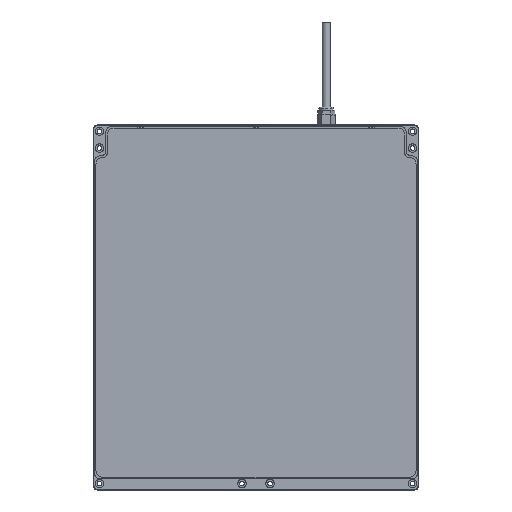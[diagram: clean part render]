
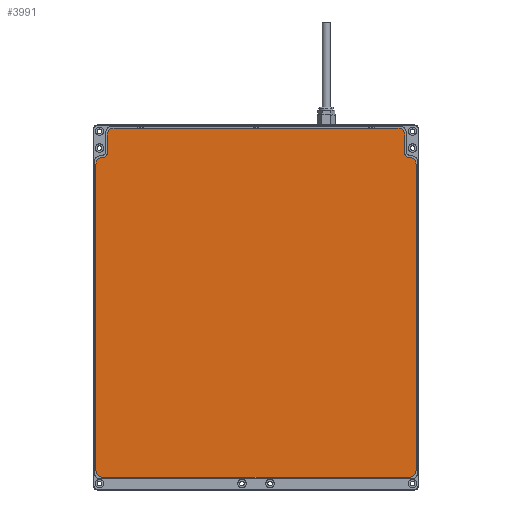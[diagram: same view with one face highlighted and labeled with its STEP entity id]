
A CAD part, top view. The second image highlights one B-rep face of the part: STEP entity #3991.
In plain terms, the highlighted planar face has unit normal (0, 0, 1).
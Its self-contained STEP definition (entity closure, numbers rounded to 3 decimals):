
#16 = CARTESIAN_POINT ( 'NONE',  ( -106., 242.8, 14.8 ) ) ;
#85 = CARTESIAN_POINT ( 'NONE',  ( 114., 4., 14.8 ) ) ;
#135 = CIRCLE ( 'NONE', #264, 5. ) ;
#197 = DIRECTION ( 'NONE',  ( 0., 0., 1. ) ) ;
#199 = ORIENTED_EDGE ( 'NONE', *, *, #2541, .T. ) ;
#245 = DIRECTION ( 'NONE',  ( 0., -1., 0. ) ) ;
#254 = CARTESIAN_POINT ( 'NONE',  ( -109., 4., 14.8 ) ) ;
#258 = CARTESIAN_POINT ( 'NONE',  ( 114., 4., 14.8 ) ) ;
#264 = AXIS2_PLACEMENT_3D ( 'NONE', #6165, #3145, #1992 ) ;
#270 = ORIENTED_EDGE ( 'NONE', *, *, #6605, .T. ) ;
#278 = VECTOR ( 'NONE', #3440, 1000. ) ;
#289 = EDGE_LOOP ( 'NONE', ( #7811, #840, #2658, #270, #1653, #4293, #907, #199, #1394, #4278, #7065, #4577, #1535, #2039, #6630, #1709 ) ) ;
#408 = AXIS2_PLACEMENT_3D ( 'NONE', #254, #2674, #7521 ) ;
#410 = AXIS2_PLACEMENT_3D ( 'NONE', #5636, #197, #2611 ) ;
#425 = CARTESIAN_POINT ( 'NONE',  ( -109., 222., 14.8 ) ) ;
#488 = EDGE_CURVE ( 'NONE', #5549, #7052, #1890, .T. ) ;
#522 = CARTESIAN_POINT ( 'NONE',  ( 108.8, 227., 14.8 ) ) ;
#551 = LINE ( 'NONE', #6536, #278 ) ;
#575 = CARTESIAN_POINT ( 'NONE',  ( 109., -1., 14.8 ) ) ;
#725 = CARTESIAN_POINT ( 'NONE',  ( 108.8, 229.8, 14.8 ) ) ;
#840 = ORIENTED_EDGE ( 'NONE', *, *, #6894, .T. ) ;
#907 = ORIENTED_EDGE ( 'NONE', *, *, #4886, .T. ) ;
#970 = FACE_OUTER_BOUND ( 'NONE', #289, .T. ) ;
#1082 = CARTESIAN_POINT ( 'NONE',  ( -109., 227., 14.8 ) ) ;
#1120 = CARTESIAN_POINT ( 'NONE',  ( 109., 227., 14.8 ) ) ;
#1309 = AXIS2_PLACEMENT_3D ( 'NONE', #1659, #2337, #5311 ) ;
#1394 = ORIENTED_EDGE ( 'NONE', *, *, #5203, .T. ) ;
#1481 = EDGE_CURVE ( 'NONE', #5472, #3357, #2689, .T. ) ;
#1516 = EDGE_CURVE ( 'NONE', #4567, #2275, #4599, .T. ) ;
#1521 = VERTEX_POINT ( 'NONE', #1741 ) ;
#1535 = ORIENTED_EDGE ( 'NONE', *, *, #1516, .T. ) ;
#1653 = ORIENTED_EDGE ( 'NONE', *, *, #488, .T. ) ;
#1659 = CARTESIAN_POINT ( 'NONE',  ( 109., 222., 14.8 ) ) ;
#1709 = ORIENTED_EDGE ( 'NONE', *, *, #7550, .T. ) ;
#1741 = CARTESIAN_POINT ( 'NONE',  ( -114., 222., 14.8 ) ) ;
#1780 = DIRECTION ( 'NONE',  ( 1., 0., 0. ) ) ;
#1802 = DIRECTION ( 'NONE',  ( 0., -1., 0. ) ) ;
#1890 = CIRCLE ( 'NONE', #2648, 2.8 ) ;
#1948 = DIRECTION ( 'NONE',  ( 0., 1., 0. ) ) ;
#1964 = EDGE_CURVE ( 'NONE', #7052, #4524, #4038, .T. ) ;
#1992 = DIRECTION ( 'NONE',  ( 1., 0., 0. ) ) ;
#2039 = ORIENTED_EDGE ( 'NONE', *, *, #4569, .T. ) ;
#2087 = VERTEX_POINT ( 'NONE', #2404 ) ;
#2198 = CARTESIAN_POINT ( 'NONE',  ( 109., 227., 14.8 ) ) ;
#2275 = VERTEX_POINT ( 'NONE', #2198 ) ;
#2337 = DIRECTION ( 'NONE',  ( 0., 0., 1. ) ) ;
#2404 = CARTESIAN_POINT ( 'NONE',  ( -109., -1., 14.8 ) ) ;
#2471 = LINE ( 'NONE', #16, #5753 ) ;
#2541 = EDGE_CURVE ( 'NONE', #1521, #4773, #4385, .T. ) ;
#2556 = AXIS2_PLACEMENT_3D ( 'NONE', #425, #6449, #3437 ) ;
#2611 = DIRECTION ( 'NONE',  ( 1., 0., 0. ) ) ;
#2625 = EDGE_CURVE ( 'NONE', #6925, #2910, #135, .T. ) ;
#2648 = AXIS2_PLACEMENT_3D ( 'NONE', #7373, #7221, #1780 ) ;
#2658 = ORIENTED_EDGE ( 'NONE', *, *, #2625, .T. ) ;
#2674 = DIRECTION ( 'NONE',  ( 0., 0., 1. ) ) ;
#2689 = CIRCLE ( 'NONE', #410, 5. ) ;
#2716 = PLANE ( 'NONE',  #4096 ) ;
#2768 = EDGE_CURVE ( 'NONE', #6687, #7341, #5463, .T. ) ;
#2910 = VERTEX_POINT ( 'NONE', #4413 ) ;
#2925 = AXIS2_PLACEMENT_3D ( 'NONE', #6000, #7746, #2946 ) ;
#2946 = DIRECTION ( 'NONE',  ( 1., 0., 0. ) ) ;
#3027 = EDGE_CURVE ( 'NONE', #2087, #5472, #551, .T. ) ;
#3092 = DIRECTION ( 'NONE',  ( -1., 0., 0. ) ) ;
#3094 = VECTOR ( 'NONE', #1948, 1000. ) ;
#3145 = DIRECTION ( 'NONE',  ( 0., 0., 1. ) ) ;
#3228 = VECTOR ( 'NONE', #7319, 1000. ) ;
#3357 = VERTEX_POINT ( 'NONE', #258 ) ;
#3437 = DIRECTION ( 'NONE',  ( 1., 0., 0. ) ) ;
#3440 = DIRECTION ( 'NONE',  ( 1., 0., 0. ) ) ;
#3684 = CARTESIAN_POINT ( 'NONE',  ( 114., 222., 14.8 ) ) ;
#3781 = VECTOR ( 'NONE', #6451, 1000. ) ;
#3814 = DIRECTION ( 'NONE',  ( 1., 0., 0. ) ) ;
#3834 = CIRCLE ( 'NONE', #408, 5. ) ;
#3991 = ADVANCED_FACE ( 'NONE', ( #970 ), #2716, .T. ) ;
#4038 = LINE ( 'NONE', #4757, #3781 ) ;
#4096 = AXIS2_PLACEMENT_3D ( 'NONE', #5768, #6403, #5169 ) ;
#4278 = ORIENTED_EDGE ( 'NONE', *, *, #3027, .T. ) ;
#4293 = ORIENTED_EDGE ( 'NONE', *, *, #1964, .T. ) ;
#4377 = LINE ( 'NONE', #85, #3094 ) ;
#4385 = LINE ( 'NONE', #4504, #5958 ) ;
#4413 = CARTESIAN_POINT ( 'NONE',  ( -106., 242.8, 14.8 ) ) ;
#4484 = LINE ( 'NONE', #6899, #5785 ) ;
#4504 = CARTESIAN_POINT ( 'NONE',  ( -114., 222., 14.8 ) ) ;
#4524 = VERTEX_POINT ( 'NONE', #1082 ) ;
#4567 = VERTEX_POINT ( 'NONE', #3684 ) ;
#4569 = EDGE_CURVE ( 'NONE', #2275, #4570, #6548, .T. ) ;
#4570 = VERTEX_POINT ( 'NONE', #522 ) ;
#4577 = ORIENTED_EDGE ( 'NONE', *, *, #6041, .T. ) ;
#4599 = CIRCLE ( 'NONE', #1309, 5. ) ;
#4757 = CARTESIAN_POINT ( 'NONE',  ( -108.8, 227., 14.8 ) ) ;
#4773 = VERTEX_POINT ( 'NONE', #7720 ) ;
#4814 = LINE ( 'NONE', #7281, #3228 ) ;
#4886 = EDGE_CURVE ( 'NONE', #4524, #1521, #5603, .T. ) ;
#5169 = DIRECTION ( 'NONE',  ( 1., 0., 0. ) ) ;
#5203 = EDGE_CURVE ( 'NONE', #4773, #2087, #3834, .T. ) ;
#5311 = DIRECTION ( 'NONE',  ( 1., 0., 0. ) ) ;
#5404 = AXIS2_PLACEMENT_3D ( 'NONE', #725, #6159, #3814 ) ;
#5463 = CIRCLE ( 'NONE', #2925, 5. ) ;
#5471 = CARTESIAN_POINT ( 'NONE',  ( 101., 247.8, 14.8 ) ) ;
#5472 = VERTEX_POINT ( 'NONE', #575 ) ;
#5549 = VERTEX_POINT ( 'NONE', #6795 ) ;
#5603 = CIRCLE ( 'NONE', #2556, 5. ) ;
#5636 = CARTESIAN_POINT ( 'NONE',  ( 109., 4., 14.8 ) ) ;
#5753 = VECTOR ( 'NONE', #1802, 1000. ) ;
#5768 = CARTESIAN_POINT ( 'NONE',  ( 101., 242.8, 14.8 ) ) ;
#5785 = VECTOR ( 'NONE', #6816, 1000. ) ;
#5958 = VECTOR ( 'NONE', #245, 1000. ) ;
#6000 = CARTESIAN_POINT ( 'NONE',  ( 101., 242.8, 14.8 ) ) ;
#6008 = CARTESIAN_POINT ( 'NONE',  ( 106., 242.8, 14.8 ) ) ;
#6041 = EDGE_CURVE ( 'NONE', #3357, #4567, #4377, .T. ) ;
#6159 = DIRECTION ( 'NONE',  ( 0., 0., -1. ) ) ;
#6165 = CARTESIAN_POINT ( 'NONE',  ( -101., 242.8, 14.8 ) ) ;
#6276 = VERTEX_POINT ( 'NONE', #7270 ) ;
#6403 = DIRECTION ( 'NONE',  ( 0., 0., 1. ) ) ;
#6449 = DIRECTION ( 'NONE',  ( 0., 0., 1. ) ) ;
#6451 = DIRECTION ( 'NONE',  ( -1., 0., 0. ) ) ;
#6536 = CARTESIAN_POINT ( 'NONE',  ( -109., -1., 14.8 ) ) ;
#6548 = LINE ( 'NONE', #1120, #6990 ) ;
#6555 = CARTESIAN_POINT ( 'NONE',  ( -101., 247.8, 14.8 ) ) ;
#6605 = EDGE_CURVE ( 'NONE', #2910, #5549, #2471, .T. ) ;
#6630 = ORIENTED_EDGE ( 'NONE', *, *, #7053, .T. ) ;
#6687 = VERTEX_POINT ( 'NONE', #6008 ) ;
#6795 = CARTESIAN_POINT ( 'NONE',  ( -106., 229.8, 14.8 ) ) ;
#6816 = DIRECTION ( 'NONE',  ( 0., 1., 0. ) ) ;
#6866 = CARTESIAN_POINT ( 'NONE',  ( -108.8, 227., 14.8 ) ) ;
#6894 = EDGE_CURVE ( 'NONE', #7341, #6925, #4814, .T. ) ;
#6899 = CARTESIAN_POINT ( 'NONE',  ( 106., 229.8, 14.8 ) ) ;
#6925 = VERTEX_POINT ( 'NONE', #6555 ) ;
#6990 = VECTOR ( 'NONE', #3092, 1000. ) ;
#7052 = VERTEX_POINT ( 'NONE', #6866 ) ;
#7053 = EDGE_CURVE ( 'NONE', #4570, #6276, #7429, .T. ) ;
#7065 = ORIENTED_EDGE ( 'NONE', *, *, #1481, .T. ) ;
#7221 = DIRECTION ( 'NONE',  ( 0., 0., -1. ) ) ;
#7270 = CARTESIAN_POINT ( 'NONE',  ( 106., 229.8, 14.8 ) ) ;
#7281 = CARTESIAN_POINT ( 'NONE',  ( 101., 247.8, 14.8 ) ) ;
#7319 = DIRECTION ( 'NONE',  ( -1., 0., 0. ) ) ;
#7341 = VERTEX_POINT ( 'NONE', #5471 ) ;
#7373 = CARTESIAN_POINT ( 'NONE',  ( -108.8, 229.8, 14.8 ) ) ;
#7429 = CIRCLE ( 'NONE', #5404, 2.8 ) ;
#7521 = DIRECTION ( 'NONE',  ( 1., 0., 0. ) ) ;
#7550 = EDGE_CURVE ( 'NONE', #6276, #6687, #4484, .T. ) ;
#7720 = CARTESIAN_POINT ( 'NONE',  ( -114., 4., 14.8 ) ) ;
#7746 = DIRECTION ( 'NONE',  ( 0., 0., 1. ) ) ;
#7811 = ORIENTED_EDGE ( 'NONE', *, *, #2768, .T. ) ;
